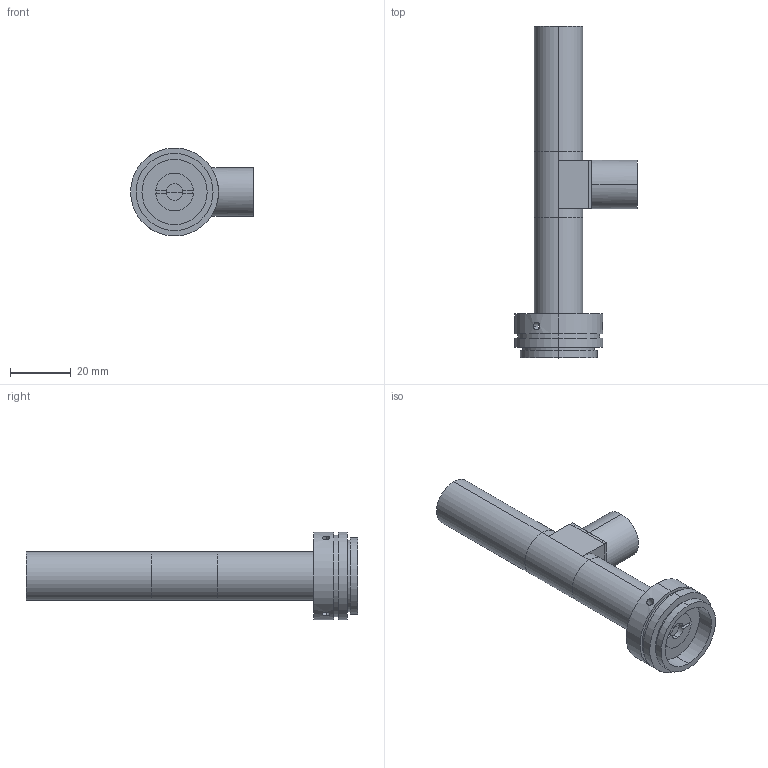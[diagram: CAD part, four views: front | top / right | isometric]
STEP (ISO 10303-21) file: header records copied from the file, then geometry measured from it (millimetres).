
FILE_DESCRIPTION (( 'STEP AP203' ), '1' );
FILE_NAME ('XF-T4X65D.STEP', '2015-07-31T05:48:56', ( 'Lxtx999.CoM' ), ( 'Lxtx999.CoM' ), 'SwSTEP 2.0', 'SolidWorks 2014', '' );
FILE_SCHEMA (( 'CONFIG_CONTROL_DESIGN' ));
Length unit declared in the file: millimetre
Products named in the file (1): XF-T4X65D
Bounding box: 40.5 x 109.43 x 29 mm (x, y, z)
Surface area: 11161.7 mm2 (no closed solid volume)
Topology: 0 solids, 12 shells, 108 faces, 298 edges, 198 vertices
Faces by surface type: cylinder 61, plane 43, sphere 4
Entity records: 3784 total; most frequent: CARTESIAN_POINT 833, DIRECTION 670, ORIENTED_EDGE 518, EDGE_CURVE 298, AXIS2_PLACEMENT_3D 275, VERTEX_POINT 198, CIRCLE 166, EDGE_LOOP 133
